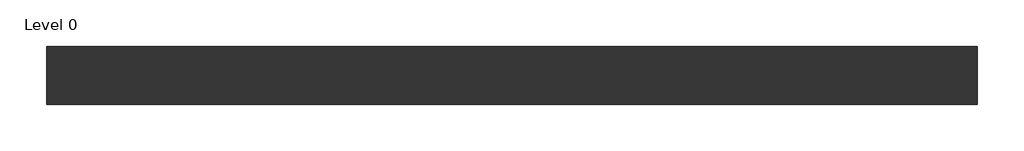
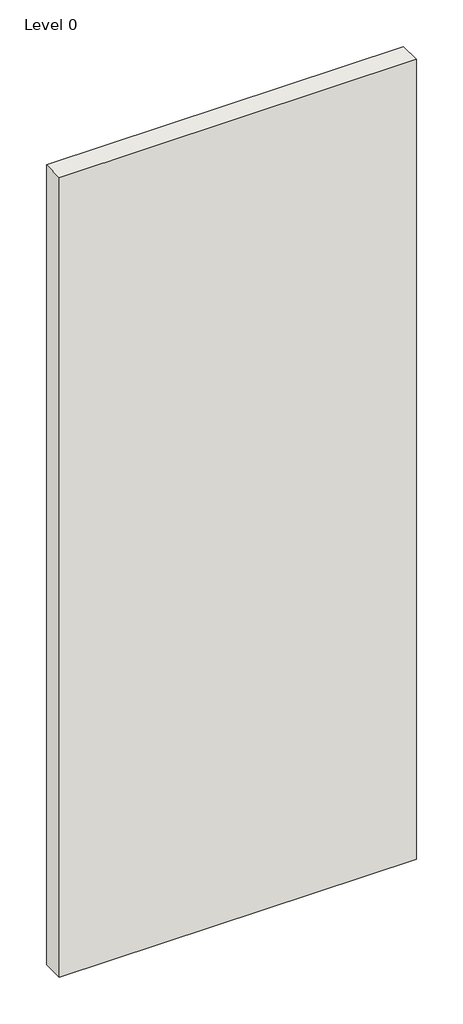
# One storey: 1 wall.
"""IFC4 building model written with IfcOpenShell, lengths in millimetres."""

from ifc_helpers import new_model, si_unit, origin, origin_with_axes, place, context, project, spatial, polyline, outline, extrude, element, save

model = new_model("IFC4")

# Units and contexts
model_context = context("Model", 3, world=origin())
ifc_project = project(units=[si_unit("LENGTHUNIT", "METRE", prefix="MILLI")], contexts=[model_context])

# Site, building, storey
site = spatial("IfcSite", under=ifc_project)
building = spatial("IfcBuilding", under=site)
storey = spatial("IfcBuildingStorey", under=building, Name="Level 0", Elevation=0.0)

# Wall
placement = place(None, origin())
element("IfcWall", 1, ObjectType="G106014 - GypWall CLASSIC", at=placement, inside=storey, context=model_context, shape_type="SweptSolid", body=[
    extrude(outline(polyline([(2116.0807354, 499.7205641), (-883.9192646, 499.7205641), (-883.9192646, 687.7205641), (2116.0807354, 687.7205641), (2116.0807354, 499.7205641)])), origin_with_axes(), (0.0, 0.0, 1.0), 7100.0),
])

save(model, "model.ifc")
